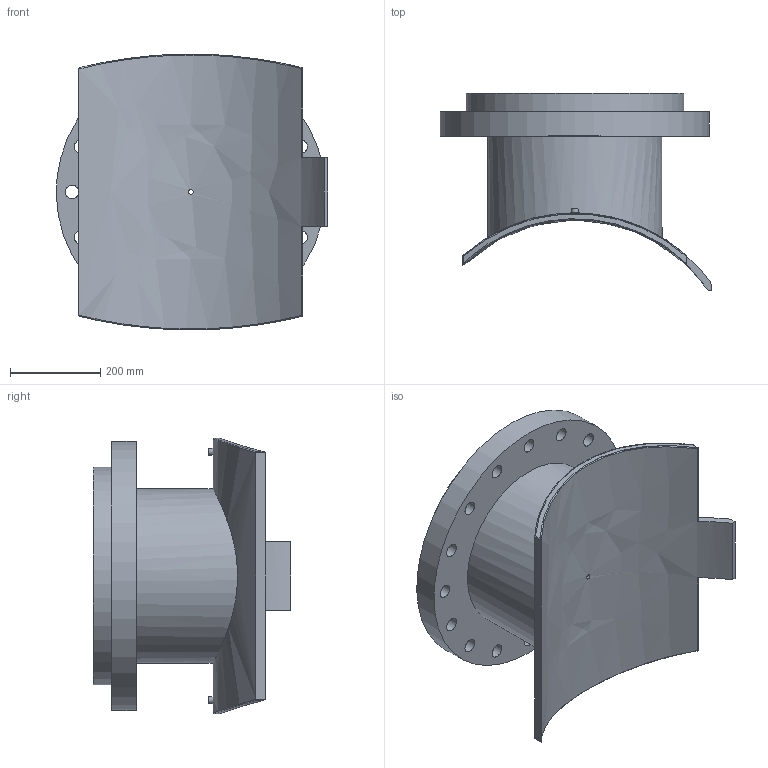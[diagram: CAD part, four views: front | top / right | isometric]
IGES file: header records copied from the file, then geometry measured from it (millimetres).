
Global section: file name: 495903710400T; native system: Autodesk Inventor 2019; preprocessor: unknown; author: KIM; date: 20240403.210621; units: millimetre
Bounding box: 599.83 x 436.94 x 609.91 mm (x, y, z)
Volume: 25244933.9 mm3; surface area: 1793749.5 mm2
Topology: 1 solids, 1 shells, 67 faces, 178 edges, 136 vertices
Faces by surface type: bspline 67
